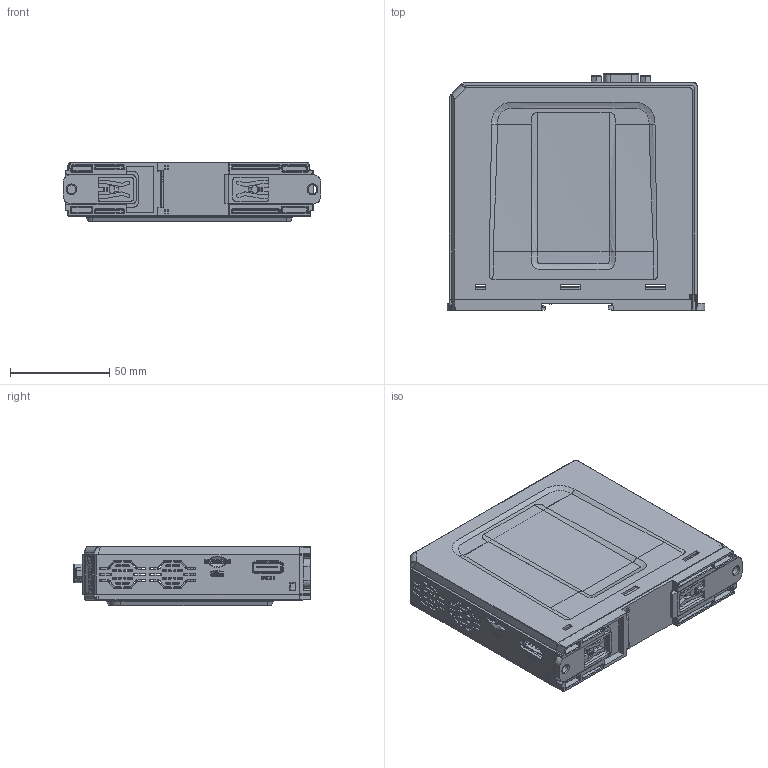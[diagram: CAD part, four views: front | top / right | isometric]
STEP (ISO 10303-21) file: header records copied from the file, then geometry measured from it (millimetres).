
FILE_DESCRIPTION (( 'STEP AP214' ), '1' );
FILE_NAME ('cMT-FHDX-820_250213.STEP', '2025-02-13T09:18:42', ( '' ), ( '' ), 'SwSTEP 2.0', 'SolidWorks 2019', '' );
FILE_SCHEMA (( 'AUTOMOTIVE_DESIGN' ));
Length unit declared in the file: millimetre
Products named in the file (21): FS1035L00_B18.6.7M - M3 x 0.5 x 5 Type I Cross Recessed FHMS --5N; GVHMCWY00_V0; FG-0011AAAS09A; DN6110V01; PT7701; FEBHMC100_130529; FSZ0B0000_康揚3.2-2.5; cMT3090 LAN用料 DN6450501; FEFCFHX10_250107; HDMI0003; RPL_RP-02; cMT-FHDX-820_250213; D-SUB (M); FEZHMC110_V0; Micro SD; FEZHMC100_130529; 5EHDRC-XXP; SG1503080_171011; FEVCMHD10_170824; RZ0HMC000_V1; cMT-SVRX of RK3568_PCBA
Assembly tree (25 placements, depth 4):
  cMT-FHDX-820_250213
    FEFCFHX10_250107
    cMT-SVRX of RK3568_PCBA
      DN6110V01
      5EHDRC-XXP
      cMT3090 LAN用料 DN6450501  x2
      RPL_RP-02
      PT7701
      SG1503080_171011
      Micro SD
        FG-0011AAAS09A
      HDMI0003
      D-SUB (M)
    FEBHMC100_130529
    FEZHMC100_130529
    FEZHMC110_V0
    GVHMCWY00_V0
    RZ0HMC000_V1
    FSZ0B0000_康揚3.2-2.5  x2
    FS1035L00_B18.6.7M - M3 x 0.5 x 5 Type I Cross Recessed FHMS --5N  x4
    FEVCMHD10_170824
Bounding box: 129.89 x 119.28 x 29.88 mm (x, y, z)
Volume: 90375.6 mm3; surface area: 121546.5 mm2
Topology: 29 solids, 30 shells, 4091 faces, 11718 edges, 7802 vertices
Faces by surface type: plane 2739, cylinder 860, cone 273, bspline 137, sphere 48, torus 34
Full cylindrical faces by diameter (mm): 0.032 x1, 0.037 x1, 0.05 x2, 0.051 x2, 0.5 x16, 0.6 x9, 0.7 x24, 0.75 x4, 0.8 x10, 1 x15, 1.15 x4, 2.5 x4, 2.845 x4, 3 x8, 3.2 x4, 3.5 x2, 4 x2, 4.1 x1, 4.2 x2, 4.35 x4, 5 x4, 5.5 x4, 6 x1
Entity records: 149503 total; most frequent: CARTESIAN_POINT 38213, ORIENTED_EDGE 22438, DIRECTION 19802, EDGE_CURVE 11219, VECTOR 8350, LINE 8350, VERTEX_POINT 7575, AXIS2_PLACEMENT_3D 5726
